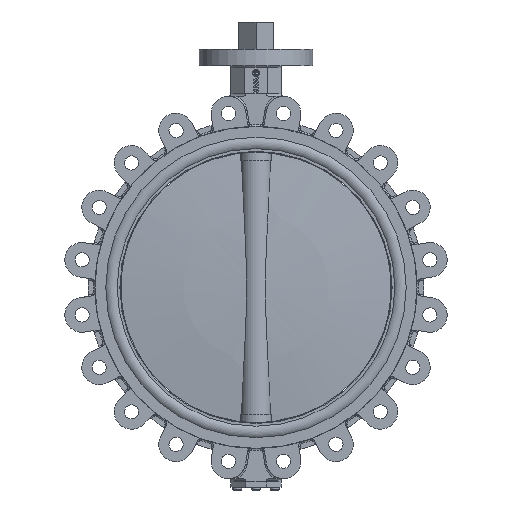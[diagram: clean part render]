
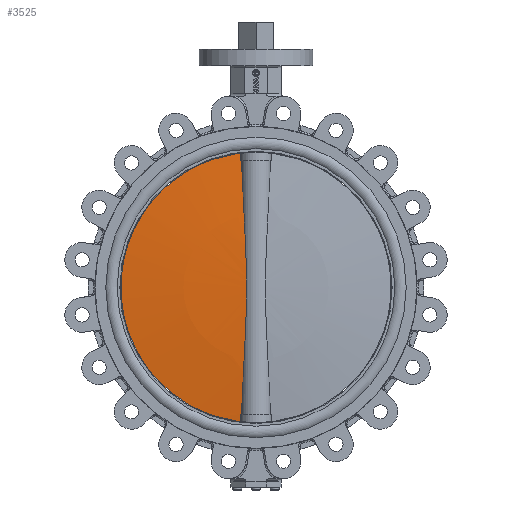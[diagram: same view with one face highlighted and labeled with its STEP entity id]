
A CAD part, left-side view. The second image highlights one B-rep face of the part: STEP entity #3525.
In plain terms, the highlighted spherical face has radius 2200.11 mm.
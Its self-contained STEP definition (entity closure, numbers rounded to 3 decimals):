
#3525=ADVANCED_FACE('',(#9819),#9821,.T.);
#9819=FACE_BOUND('',#9820,.T.);
#9820=EDGE_LOOP('',(#15256,#15257,#15258,#15259,#15260,#15261));
#9821=SPHERICAL_SURFACE('',#9822,2200.107);
#9822=AXIS2_PLACEMENT_3D('',#9823,#9824,#9825);
#9823=CARTESIAN_POINT('',(0.,-2177.107,0.));
#9824=DIRECTION('',(0.,-1.,0.));
#9825=DIRECTION('',(0.,0.,1.));
#15256=ORIENTED_EDGE('',*,*,#17644,.F.);
#15257=ORIENTED_EDGE('',*,*,#17656,.F.);
#15258=ORIENTED_EDGE('',*,*,#17657,.T.);
#15259=ORIENTED_EDGE('',*,*,#17658,.F.);
#15260=ORIENTED_EDGE('',*,*,#17627,.F.);
#15261=ORIENTED_EDGE('',*,*,#17655,.T.);
#17627=EDGE_CURVE('',#21353,#21354,#21355,.T.);
#17644=EDGE_CURVE('',#21386,#21371,#21388,.F.);
#17655=EDGE_CURVE('',#21353,#21371,#21403,.T.);
#17656=EDGE_CURVE('',#21404,#21386,#21405,.T.);
#17657=EDGE_CURVE('',#21404,#21406,#21407,.T.);
#17658=EDGE_CURVE('',#21354,#21406,#21408,.F.);
#21353=VERTEX_POINT('',#35585);
#21354=VERTEX_POINT('',#35586);
#21355=B_SPLINE_CURVE_WITH_KNOTS('',3,
(#35587,#35588,#35589,#35590,#35591,#35592,#35593),
.UNSPECIFIED.,.F.,.F.,
(4,1,1,1,4),
(0.,0.249,0.498,0.749,1.),
.UNSPECIFIED.);
#21371=VERTEX_POINT('',#35709);
#21386=VERTEX_POINT('',#35821);
#21388=B_SPLINE_CURVE_WITH_KNOTS('',3,
(#35826,#35827,#35828,#35829,#35830,#35831,#35832),
.UNSPECIFIED.,.F.,.F.,
(4,1,1,1,4),
(0.,0.249,0.498,0.749,1.),
.UNSPECIFIED.);
#21403=CIRCLE('',#35940,250.);
#21404=VERTEX_POINT('',#35944);
#21405=CIRCLE('',#35945,2187.655);
#21406=VERTEX_POINT('',#35949);
#21407=B_SPLINE_CURVE_WITH_KNOTS('',3,
(#35950,#35951,#35952,#35953,#35954,#35955,#35956,#35957,#35958,#35959,#35960,#35961,
#35962,#35963,#35964,#35965,#35966,#35967,#35968,#35969,#35970,#35971,#35972,#35973,
#35974,#35975,#35976,#35977,#35978,#35979,#35980,#35981,#35982,#35983,#35984,#35985,
#35986),
.UNSPECIFIED.,.F.,.F.,
(4,1,1,1,1,1,1,1,1,1,1,1,1,1,1,1,1,1,1,1,1,1,1,1,1,1,1,1,1,1,1,1,1,1,4),
(0.,0.02,0.041,0.061,0.082,
0.102,0.134,0.183,0.248,0.303,
0.345,0.371,0.395,0.417,0.44,
0.463,0.486,0.5,0.51,0.534,
0.559,0.585,0.612,0.64,0.669,
0.698,0.729,0.761,0.793,0.826,
0.86,0.894,0.929,0.964,1.),
.UNSPECIFIED.);
#21408=CIRCLE('',#35987,2187.655);
#35585=CARTESIAN_POINT('',(28.865,8.75,248.328));
#35586=CARTESIAN_POINT('',(28.326,10.364,233.75));
#35587=CARTESIAN_POINT('',(28.865,8.75,248.328));
#35588=CARTESIAN_POINT('',(28.824,8.888,247.119));
#35589=CARTESIAN_POINT('',(28.738,9.162,244.698));
#35590=CARTESIAN_POINT('',(28.606,9.568,241.06));
#35591=CARTESIAN_POINT('',(28.468,9.969,237.409));
#35592=CARTESIAN_POINT('',(28.374,10.233,234.971));
#35593=CARTESIAN_POINT('',(28.326,10.364,233.75));
#35709=CARTESIAN_POINT('',(28.865,8.75,-248.328));
#35821=CARTESIAN_POINT('',(28.326,10.364,-233.75));
#35826=CARTESIAN_POINT('',(28.865,8.75,-248.328));
#35827=CARTESIAN_POINT('',(28.824,8.888,-247.119));
#35828=CARTESIAN_POINT('',(28.738,9.162,-244.698));
#35829=CARTESIAN_POINT('',(28.606,9.568,-241.06));
#35830=CARTESIAN_POINT('',(28.468,9.969,-237.409));
#35831=CARTESIAN_POINT('',(28.374,10.233,-234.971));
#35832=CARTESIAN_POINT('',(28.326,10.364,-233.75));
#35940=AXIS2_PLACEMENT_3D('',#35941,#35942,#35943);
#35941=CARTESIAN_POINT('',(0.,8.75,0.));
#35942=DIRECTION('',(0.,1.,0.));
#35943=DIRECTION('',(0.115,0.,0.993));
#35944=CARTESIAN_POINT('',(26.932,10.382,-233.75));
#35945=AXIS2_PLACEMENT_3D('',#35946,#35947,#35948);
#35946=CARTESIAN_POINT('',(0.,-2177.107,-233.75));
#35947=DIRECTION('',(0.,0.,-1.));
#35948=DIRECTION('',(0.012,1.,0.));
#35949=CARTESIAN_POINT('',(26.932,10.382,233.75));
#35950=CARTESIAN_POINT('',(26.932,10.382,-233.75));
#35951=CARTESIAN_POINT('',(26.801,10.722,-230.579));
#35952=CARTESIAN_POINT('',(26.529,11.39,-224.232));
#35953=CARTESIAN_POINT('',(26.095,12.35,-214.705));
#35954=CARTESIAN_POINT('',(25.639,13.27,-205.163));
#35955=CARTESIAN_POINT('',(25.164,14.15,-195.607));
#35956=CARTESIAN_POINT('',(24.581,15.146,-184.243));
#35957=CARTESIAN_POINT('',(23.751,16.434,-168.538));
#35958=CARTESIAN_POINT('',(22.529,18.093,-145.929));
#35959=CARTESIAN_POINT('',(21.125,19.706,-119.603));
#35960=CARTESIAN_POINT('',(19.891,20.931,-94.243));
#35961=CARTESIAN_POINT('',(19.082,21.661,-74.914));
#35962=CARTESIAN_POINT('',(18.57,22.098,-60.557));
#35963=CARTESIAN_POINT('',(18.228,22.38,-49.319));
#35964=CARTESIAN_POINT('',(17.961,22.595,-38.668));
#35965=CARTESIAN_POINT('',(17.756,22.756,-28.176));
#35966=CARTESIAN_POINT('',(17.61,22.869,-17.481));
#35967=CARTESIAN_POINT('',(17.542,22.921,-8.055));
#35968=CARTESIAN_POINT('',(17.527,22.932,-0.67));
#35969=CARTESIAN_POINT('',(17.538,22.925,6.845));
#35970=CARTESIAN_POINT('',(17.595,22.881,16.075));
#35971=CARTESIAN_POINT('',(17.747,22.764,27.803));
#35972=CARTESIAN_POINT('',(17.987,22.575,39.986));
#35973=CARTESIAN_POINT('',(18.317,22.308,52.561));
#35974=CARTESIAN_POINT('',(18.741,21.955,65.625));
#35975=CARTESIAN_POINT('',(19.255,21.507,79.115));
#35976=CARTESIAN_POINT('',(19.857,20.954,93.129));
#35977=CARTESIAN_POINT('',(20.535,20.292,107.504));
#35978=CARTESIAN_POINT('',(21.277,19.514,122.256));
#35979=CARTESIAN_POINT('',(22.068,18.618,137.305));
#35980=CARTESIAN_POINT('',(22.898,17.59,152.752));
#35981=CARTESIAN_POINT('',(23.747,16.429,168.497));
#35982=CARTESIAN_POINT('',(24.598,15.129,184.541));
#35983=CARTESIAN_POINT('',(25.429,13.692,200.782));
#35984=CARTESIAN_POINT('',(26.219,12.114,217.221));
#35985=CARTESIAN_POINT('',(26.703,10.975,228.224));
#35986=CARTESIAN_POINT('',(26.932,10.382,233.75));
#35987=AXIS2_PLACEMENT_3D('',#35988,#35989,#35990);
#35988=CARTESIAN_POINT('',(0.,-2177.107,233.75));
#35989=DIRECTION('',(0.,0.,-1.));
#35990=DIRECTION('',(0.012,1.,0.));
